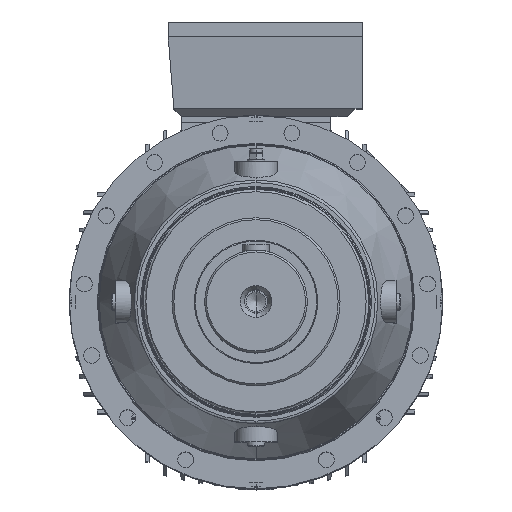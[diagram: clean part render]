
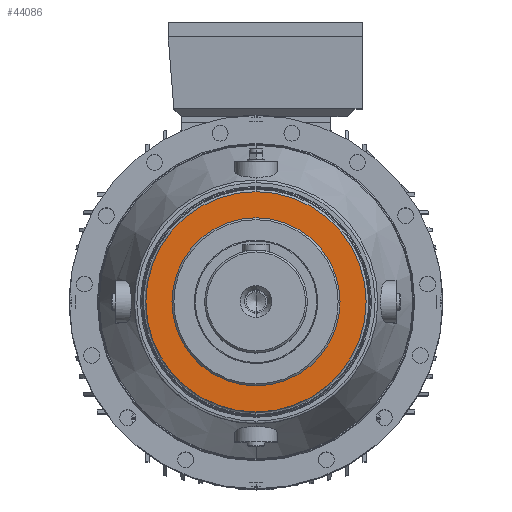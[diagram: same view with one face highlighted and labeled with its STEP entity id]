
A CAD part, top view. The second image highlights one B-rep face of the part: STEP entity #44086.
In plain terms, the highlighted planar face has unit normal (0, 0, 1).
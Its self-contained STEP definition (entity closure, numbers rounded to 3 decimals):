
#798 = DIRECTION ( 'NONE',  ( 0., 1., 0. ) ) ;
#836 = CARTESIAN_POINT ( 'NONE',  ( 0., 0., 175. ) ) ;
#838 = DIRECTION ( 'NONE',  ( 0., 0., 1. ) ) ;
#1427 = CARTESIAN_POINT ( 'NONE',  ( 0., 0., 175. ) ) ;
#1443 = DIRECTION ( 'NONE',  ( 0., 1., 0. ) ) ;
#1461 = DIRECTION ( 'NONE',  ( 0., 0., -1. ) ) ;
#1477 = CARTESIAN_POINT ( 'NONE',  ( 0., 0., 175. ) ) ;
#1482 = DIRECTION ( 'NONE',  ( 0., 0., -1. ) ) ;
#1485 = DIRECTION ( 'NONE',  ( 0., 1., 0. ) ) ;
#2075 = DIRECTION ( 'NONE',  ( 0., 0., 1. ) ) ;
#2083 = CARTESIAN_POINT ( 'NONE',  ( 0., 0., 175. ) ) ;
#2122 = DIRECTION ( 'NONE',  ( 0., 1., 0. ) ) ;
#11504 = DIRECTION ( 'NONE',  ( 0., 1., 0. ) ) ;
#11521 = DIRECTION ( 'NONE',  ( 0., 0., -1. ) ) ;
#11540 = CARTESIAN_POINT ( 'NONE',  ( 0., 118., 175. ) ) ;
#11541 = PLANE ( 'NONE',  #37900 ) ;
#12646 = FACE_BOUND ( 'NONE', #14380, .T. ) ;
#12647 = FACE_OUTER_BOUND ( 'NONE', #14379, .T. ) ;
#14379 = EDGE_LOOP ( 'NONE', ( #63395, #63462 ) ) ;
#14380 = EDGE_LOOP ( 'NONE', ( #63584, #63460 ) ) ;
#30738 = EDGE_CURVE ( 'NONE', #60171, #60250, #72252, .T. ) ;
#30791 = EDGE_CURVE ( 'NONE', #60164, #60192, #72793, .T. ) ;
#30798 = EDGE_CURVE ( 'NONE', #60192, #60164, #72827, .T. ) ;
#30870 = EDGE_CURVE ( 'NONE', #60250, #60171, #73278, .T. ) ;
#37900 = AXIS2_PLACEMENT_3D ( 'NONE', #11540, #11521, #11504 ) ;
#44086 = ADVANCED_FACE ( 'NONE', ( #12646, #12647 ), #11541, .F. ) ;
#54241 = AXIS2_PLACEMENT_3D ( 'NONE', #1477, #1482, #1485 ) ;
#54247 = AXIS2_PLACEMENT_3D ( 'NONE', #2083, #2075, #2122 ) ;
#54296 = AXIS2_PLACEMENT_3D ( 'NONE', #836, #838, #798 ) ;
#54301 = AXIS2_PLACEMENT_3D ( 'NONE', #1427, #1461, #1443 ) ;
#60164 = VERTEX_POINT ( 'NONE', #83389 ) ;
#60171 = VERTEX_POINT ( 'NONE', #83344 ) ;
#60192 = VERTEX_POINT ( 'NONE', #83414 ) ;
#60250 = VERTEX_POINT ( 'NONE', #80799 ) ;
#63395 = ORIENTED_EDGE ( 'NONE', *, *, #30791, .F. ) ;
#63460 = ORIENTED_EDGE ( 'NONE', *, *, #30738, .F. ) ;
#63462 = ORIENTED_EDGE ( 'NONE', *, *, #30798, .F. ) ;
#63584 = ORIENTED_EDGE ( 'NONE', *, *, #30870, .F. ) ;
#72252 = CIRCLE ( 'NONE', #54296, 90. ) ;
#72793 = CIRCLE ( 'NONE', #54301, 118. ) ;
#72827 = CIRCLE ( 'NONE', #54241, 118. ) ;
#73278 = CIRCLE ( 'NONE', #54247, 90. ) ;
#80799 = CARTESIAN_POINT ( 'NONE',  ( 0., 90., 175. ) ) ;
#83344 = CARTESIAN_POINT ( 'NONE',  ( 0., -90., 175. ) ) ;
#83389 = CARTESIAN_POINT ( 'NONE',  ( 0., -118., 175. ) ) ;
#83414 = CARTESIAN_POINT ( 'NONE',  ( 0., 118., 175. ) ) ;
